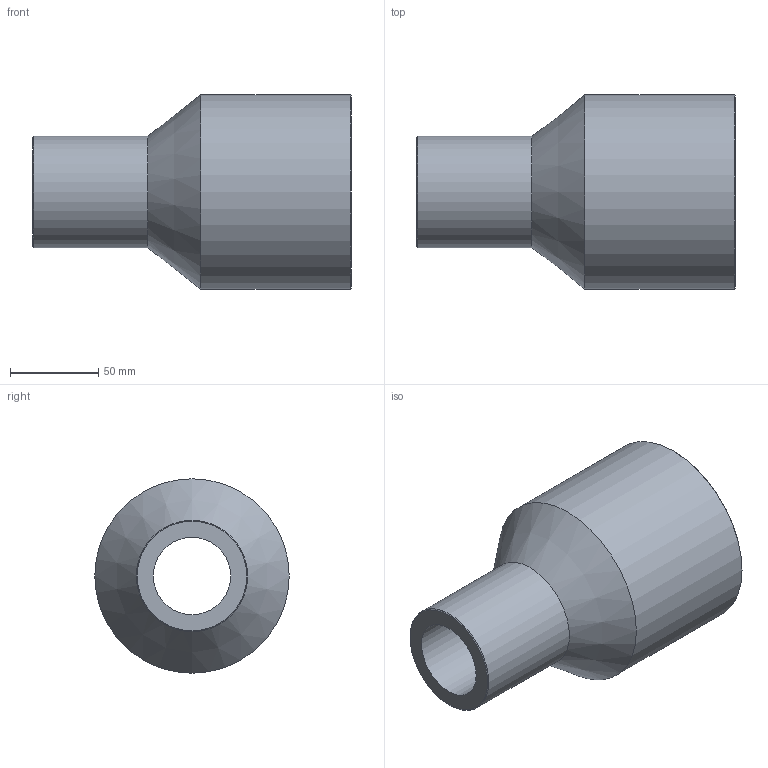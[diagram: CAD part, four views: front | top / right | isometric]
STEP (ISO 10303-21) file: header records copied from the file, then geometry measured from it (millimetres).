
FILE_DESCRIPTION(/* description */ ('Unknown'),/* implementation_level */ '2;1');
FILE_NAME(/* name */ 'RP110063H',/* time_stamp */ '2024-01-10T11:56:57+01:00',/* author */ ('Unknown'),/* organization */ ('Unknown'),/* preprocessor_version */ 'ST-DEVELOPER v18.102',/* originating_system */ 'Solid Edge',/* authorisation */ 'Unknown');
FILE_SCHEMA (('AUTOMOTIVE_DESIGN {1 0 10303 214 3 1 1}'));
Length unit declared in the file: millimetre
Products named in the file (1): RP110063H
Bounding box: 180 x 110 x 110 mm (x, y, z)
Volume: 603332.2 mm3; surface area: 94688.4 mm2
Topology: 1 solids, 1 shells, 10 faces, 19 edges, 11 vertices
Faces by surface type: cylinder 4, cone 4, plane 2
Full cylindrical faces by diameter (mm): 43.8 x1, 63 x1, 79.8 x1, 110 x1
Entity records: 238 total; most frequent: DIRECTION 42, CARTESIAN_POINT 31, AXIS2_PLACEMENT_3D 21, ORIENTED_EDGE 20, EDGE_LOOP 20, FACE_BOUND 20, EDGE_CURVE 10, VERTEX_POINT 10
